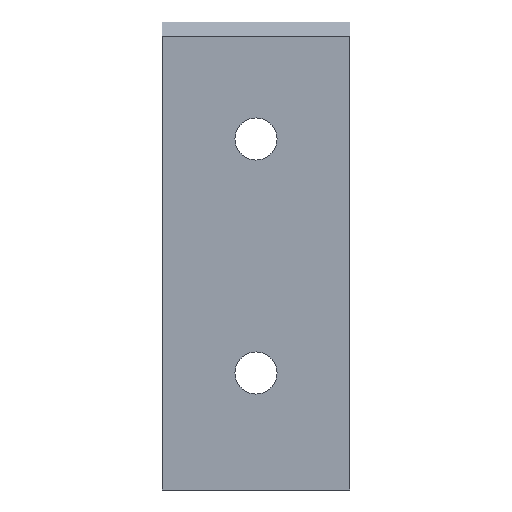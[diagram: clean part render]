
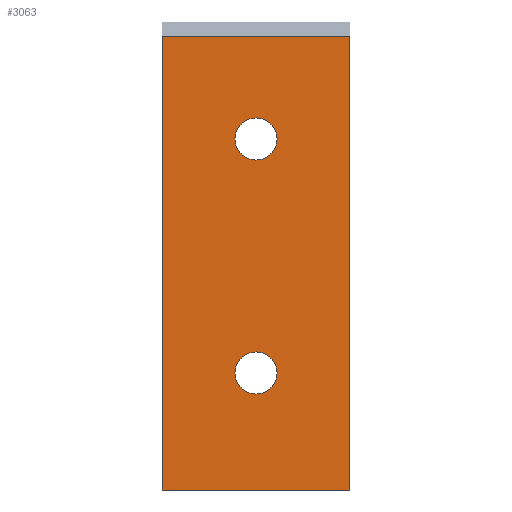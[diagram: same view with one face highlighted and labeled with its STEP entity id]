
A CAD part, front view. The second image highlights one B-rep face of the part: STEP entity #3063.
In plain terms, the highlighted planar face has unit normal (0, -1, 0).
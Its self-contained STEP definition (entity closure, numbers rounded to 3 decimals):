
#26 = AXIS2_PLACEMENT_3D ( 'NONE', #1539, #2177, #284 ) ;
#109 = CIRCLE ( 'NONE', #867, 4.5 ) ;
#128 = LINE ( 'NONE', #429, #1492 ) ;
#177 = CARTESIAN_POINT ( 'NONE',  ( 20., 0., 97. ) ) ;
#182 = ORIENTED_EDGE ( 'NONE', *, *, #2689, .F. ) ;
#183 = CARTESIAN_POINT ( 'NONE',  ( 0., 0., 0. ) ) ;
#235 = FACE_BOUND ( 'NONE', #1537, .T. ) ;
#257 = DIRECTION ( 'NONE',  ( 0., 0., -1. ) ) ;
#284 = DIRECTION ( 'NONE',  ( 1., 0., 0. ) ) ;
#311 = CARTESIAN_POINT ( 'NONE',  ( 15.5, 0., 25. ) ) ;
#318 = AXIS2_PLACEMENT_3D ( 'NONE', #1443, #2657, #1322 ) ;
#323 = CARTESIAN_POINT ( 'NONE',  ( 40., 0., 0. ) ) ;
#324 = FACE_OUTER_BOUND ( 'NONE', #706, .T. ) ;
#410 = ORIENTED_EDGE ( 'NONE', *, *, #630, .F. ) ;
#429 = CARTESIAN_POINT ( 'NONE',  ( 0., 0., 48.5 ) ) ;
#630 = EDGE_CURVE ( 'NONE', #1077, #1276, #2770, .T. ) ;
#687 = VECTOR ( 'NONE', #1199, 1000. ) ;
#706 = EDGE_LOOP ( 'NONE', ( #3011, #1023, #3326, #772 ) ) ;
#725 = EDGE_CURVE ( 'NONE', #2188, #985, #837, .T. ) ;
#733 = EDGE_CURVE ( 'NONE', #1648, #818, #2889, .T. ) ;
#744 = VECTOR ( 'NONE', #2050, 1000. ) ;
#772 = ORIENTED_EDGE ( 'NONE', *, *, #2303, .F. ) ;
#818 = VERTEX_POINT ( 'NONE', #323 ) ;
#837 = CIRCLE ( 'NONE', #26, 4.5 ) ;
#867 = AXIS2_PLACEMENT_3D ( 'NONE', #1590, #1795, #2539 ) ;
#897 = CIRCLE ( 'NONE', #2080, 4.5 ) ;
#909 = LINE ( 'NONE', #177, #2967 ) ;
#980 = AXIS2_PLACEMENT_3D ( 'NONE', #2915, #2435, #3102 ) ;
#985 = VERTEX_POINT ( 'NONE', #2962 ) ;
#1023 = ORIENTED_EDGE ( 'NONE', *, *, #733, .T. ) ;
#1077 = VERTEX_POINT ( 'NONE', #1336 ) ;
#1199 = DIRECTION ( 'NONE',  ( 0., 0., -1. ) ) ;
#1223 = CARTESIAN_POINT ( 'NONE',  ( 40., 0., 48.5 ) ) ;
#1276 = VERTEX_POINT ( 'NONE', #311 ) ;
#1322 = DIRECTION ( 'NONE',  ( 0., 0., -1. ) ) ;
#1336 = CARTESIAN_POINT ( 'NONE',  ( 24.5, 0., 25. ) ) ;
#1443 = CARTESIAN_POINT ( 'NONE',  ( 0., 0., 100. ) ) ;
#1492 = VECTOR ( 'NONE', #257, 1000. ) ;
#1527 = DIRECTION ( 'NONE',  ( 1., 0., 0. ) ) ;
#1537 = EDGE_LOOP ( 'NONE', ( #182, #410 ) ) ;
#1539 = CARTESIAN_POINT ( 'NONE',  ( 20., 0., 75. ) ) ;
#1572 = VERTEX_POINT ( 'NONE', #3026 ) ;
#1590 = CARTESIAN_POINT ( 'NONE',  ( 20., 0., 25. ) ) ;
#1629 = PLANE ( 'NONE',  #318 ) ;
#1648 = VERTEX_POINT ( 'NONE', #183 ) ;
#1650 = EDGE_CURVE ( 'NONE', #1572, #1648, #128, .T. ) ;
#1665 = VERTEX_POINT ( 'NONE', #2413 ) ;
#1795 = DIRECTION ( 'NONE',  ( 0., -1., 0. ) ) ;
#2050 = DIRECTION ( 'NONE',  ( 1., 0., 0. ) ) ;
#2080 = AXIS2_PLACEMENT_3D ( 'NONE', #3069, #2813, #2867 ) ;
#2177 = DIRECTION ( 'NONE',  ( 0., -1., 0. ) ) ;
#2188 = VERTEX_POINT ( 'NONE', #2991 ) ;
#2303 = EDGE_CURVE ( 'NONE', #1572, #1665, #909, .T. ) ;
#2356 = EDGE_LOOP ( 'NONE', ( #3247, #3109 ) ) ;
#2413 = CARTESIAN_POINT ( 'NONE',  ( 40., 0., 97. ) ) ;
#2435 = DIRECTION ( 'NONE',  ( 0., -1., 0. ) ) ;
#2479 = FACE_BOUND ( 'NONE', #2356, .T. ) ;
#2539 = DIRECTION ( 'NONE',  ( 1., 0., 0. ) ) ;
#2657 = DIRECTION ( 'NONE',  ( 0., -1., 0. ) ) ;
#2689 = EDGE_CURVE ( 'NONE', #1276, #1077, #109, .T. ) ;
#2757 = LINE ( 'NONE', #1223, #687 ) ;
#2770 = CIRCLE ( 'NONE', #980, 4.5 ) ;
#2813 = DIRECTION ( 'NONE',  ( 0., -1., 0. ) ) ;
#2846 = EDGE_CURVE ( 'NONE', #985, #2188, #897, .T. ) ;
#2867 = DIRECTION ( 'NONE',  ( 1., 0., 0. ) ) ;
#2889 = LINE ( 'NONE', #3342, #744 ) ;
#2915 = CARTESIAN_POINT ( 'NONE',  ( 20., 0., 25. ) ) ;
#2962 = CARTESIAN_POINT ( 'NONE',  ( 24.5, 0., 75. ) ) ;
#2967 = VECTOR ( 'NONE', #1527, 1000. ) ;
#2991 = CARTESIAN_POINT ( 'NONE',  ( 15.5, 0., 75. ) ) ;
#3011 = ORIENTED_EDGE ( 'NONE', *, *, #1650, .T. ) ;
#3026 = CARTESIAN_POINT ( 'NONE',  ( 0., 0., 97. ) ) ;
#3063 = ADVANCED_FACE ( 'NONE', ( #324, #235, #2479 ), #1629, .T. ) ;
#3065 = EDGE_CURVE ( 'NONE', #1665, #818, #2757, .T. ) ;
#3069 = CARTESIAN_POINT ( 'NONE',  ( 20., 0., 75. ) ) ;
#3102 = DIRECTION ( 'NONE',  ( 1., 0., 0. ) ) ;
#3109 = ORIENTED_EDGE ( 'NONE', *, *, #725, .F. ) ;
#3247 = ORIENTED_EDGE ( 'NONE', *, *, #2846, .F. ) ;
#3326 = ORIENTED_EDGE ( 'NONE', *, *, #3065, .F. ) ;
#3342 = CARTESIAN_POINT ( 'NONE',  ( 20., 0., 0. ) ) ;
